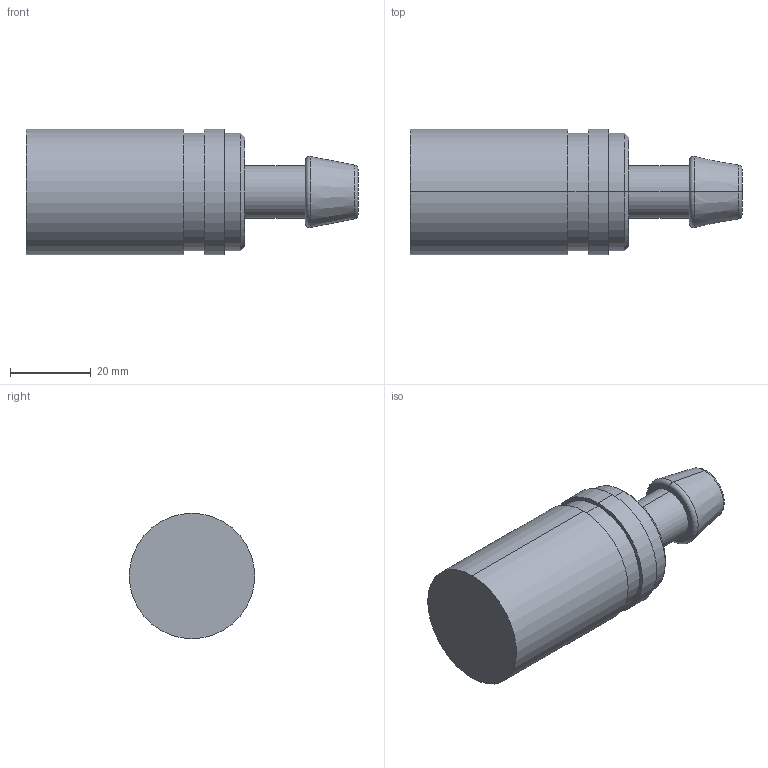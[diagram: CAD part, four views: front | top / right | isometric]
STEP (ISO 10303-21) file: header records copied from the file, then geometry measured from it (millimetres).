
FILE_DESCRIPTION (( 'STEP AP214' ), '1' );
FILE_NAME ('BR601.09 HGB 13.STEP', '2020-12-02T13:59:03', ( '' ), ( '' ), 'SwSTEP 2.0', 'SolidWorks 2018', '' );
FILE_SCHEMA (( 'AUTOMOTIVE_DESIGN' ));
Length unit declared in the file: millimetre
Products named in the file (1): BR601.09 HGB 13
Bounding box: 82 x 31 x 31 mm (x, y, z)
Volume: 44212.3 mm3; surface area: 8169.3 mm2
Topology: 1 solids, 1 shells, 25 faces, 48 edges, 30 vertices
Faces by surface type: cylinder 10, plane 7, cone 4, torus 4
Entity records: 682 total; most frequent: DIRECTION 134, CARTESIAN_POINT 104, ORIENTED_EDGE 96, AXIS2_PLACEMENT_3D 60, EDGE_CURVE 48, CIRCLE 34, VERTEX_POINT 30, EDGE_LOOP 30
